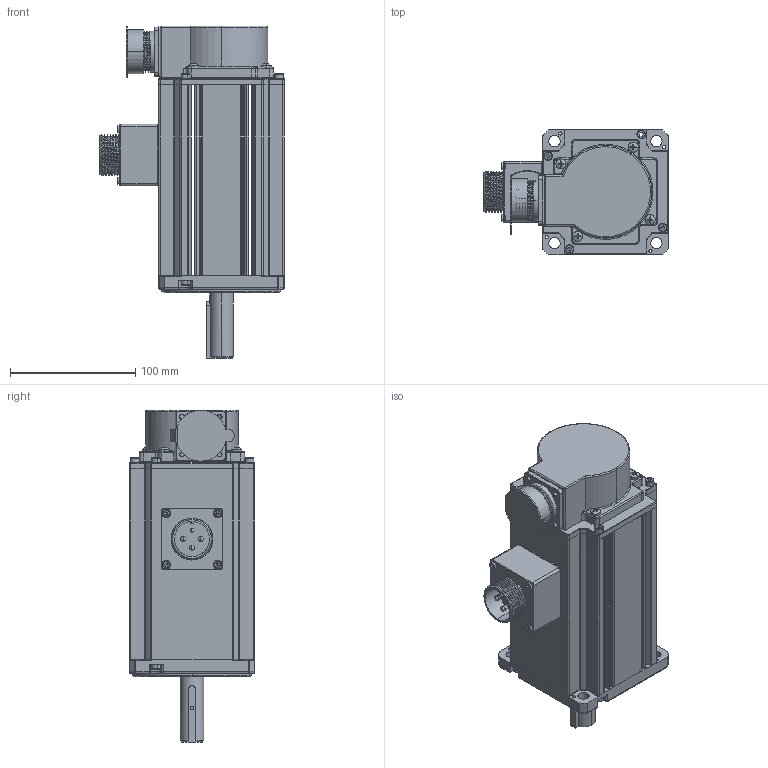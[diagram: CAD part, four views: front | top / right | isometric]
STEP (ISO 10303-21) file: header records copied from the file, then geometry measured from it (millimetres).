
FILE_DESCRIPTION (( 'STEP AP203' ), '1' );
FILE_NAME ('WF100ST-Z1M06430总装-YD28+轴19×55.STEP', '2024-01-30T08:51:14', ( 'lvbing' ), ( 'WG' ), 'SwSTEP 2.0', 'SolidWorks 2018', '' );
FILE_SCHEMA (( 'CONFIG_CONTROL_DESIGN' ));
Length unit declared in the file: millimetre
Products named in the file (2): WF100ST-Z1M06430总装-YD28+轴19×55
Bounding box: 147 x 100 x 265 mm (x, y, z)
Surface area: 144466.4 mm2 (no closed solid volume)
Topology: 0 solids, 56 shells, 982 faces, 2766 edges, 1806 vertices
Faces by surface type: cylinder 421, plane 325, torus 138, cone 49, bspline 31, sphere 18
Entity records: 34621 total; most frequent: CARTESIAN_POINT 9260, DIRECTION 5683, ORIENTED_EDGE 4699, EDGE_CURVE 2721, AXIS2_PLACEMENT_3D 2195, VERTEX_POINT 1798, LINE 1293, VECTOR 1293
